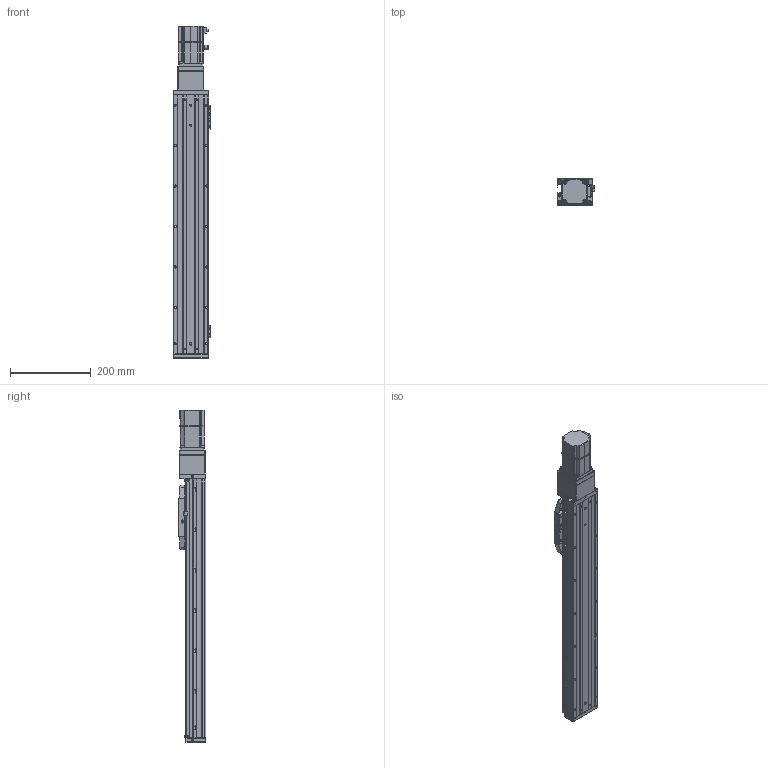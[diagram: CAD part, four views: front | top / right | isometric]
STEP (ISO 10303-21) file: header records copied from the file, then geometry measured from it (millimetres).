
FILE_DESCRIPTION (( 'STEP AP203' ), '1' );
FILE_NAME ('CTHA86-450-BC-M20-C4L.step', '2022-04-26T00:47:01', ( '微软用户' ), ( '微软中国' ), 'SwSTEP 2.0', 'SolidWorks 2020', '' );
FILE_SCHEMA (( 'CONFIG_CONTROL_DESIGN' ));
Length unit declared in the file: millimetre
Products named in the file (22): EE_SX911P_R; GBT 70.1-M3℅6; CTHA86-002; CTHA60-017; CTHA60-016; CTHA86-031; CTHA60-021; CTHA86-013; CTHA86-030; KTHA86-001_640; GBT77-2000 M3×3; CTHA86-027; CTHA86-450-BC-M20-C4L; KTHA86-004; GBT 70.1-M3×20; CTHA86-006-1_CTHA86-006-2; KTHA86-005; GBT70.1 M5℅16; _X2_4E0983F1_X0_200W_1; GB¨uT 70.2-M3¡Á5_M3¡Á6; GBT 70.1-M3×16; GBT 70.3-M3℅6
Assembly tree (65 placements, depth 2):
  CTHA86-450-BC-M20-C4L
    KTHA86-001_640
    KTHA86-004
    KTHA86-005
    GB¨uT 70.2-M3¡Á5_M3¡Á6  x10
    EE_SX911P_R  x3
    CTHA60-017  x3
    CTHA60-021  x2
    GBT77-2000 M3×3  x6
    GBT 70.1-M3×20
    GBT70.1 M5℅16  x14
    GBT 70.1-M3×16
    GBT 70.1-M3℅6  x6
    CTHA60-016  x2
    CTHA86-013
    CTHA86-027
    CTHA86-006-1_CTHA86-006-2
    _X2_4E0983F1_X0_200W_1
    GBT 70.3-M3℅6  x6
    CTHA86-002
    CTHA86-031
    CTHA86-030  x2
Bounding box: 93.82 x 68 x 820.5 mm (x, y, z)
Volume: 2800935.2 mm3; surface area: 507182.6 mm2
Topology: 67 solids, 67 shells, 2694 faces, 6415 edges, 3940 vertices
Faces by surface type: plane 1404, cylinder 691, cone 386, torus 120, bspline 69, sphere 24
Entity records: 46983 total; most frequent: CARTESIAN_POINT 8736, DIRECTION 7378, ORIENTED_EDGE 7086, EDGE_CURVE 3543, AXIS2_PLACEMENT_3D 2518, LINE 2342, VECTOR 2342, VERTEX_POINT 2218
